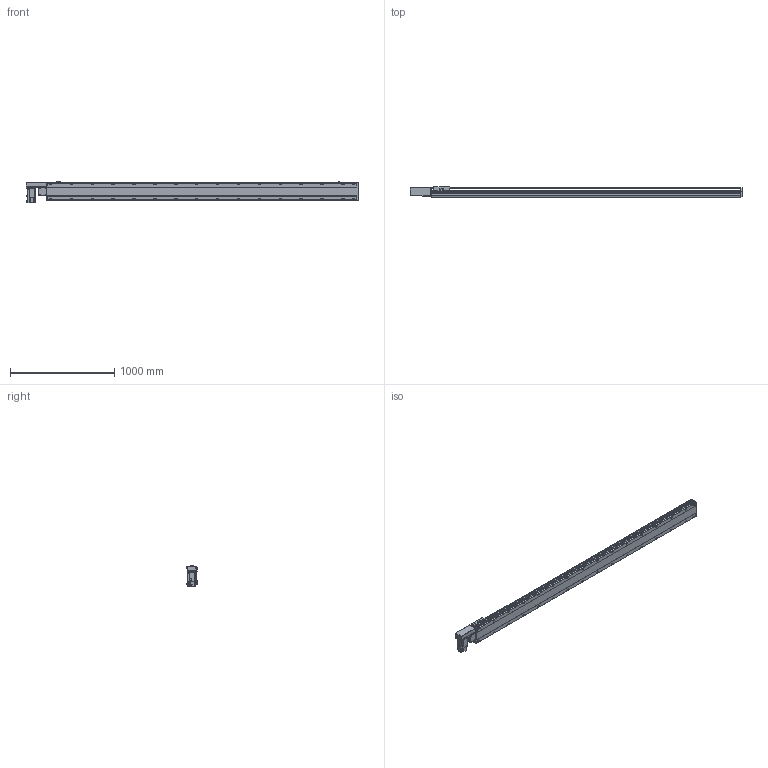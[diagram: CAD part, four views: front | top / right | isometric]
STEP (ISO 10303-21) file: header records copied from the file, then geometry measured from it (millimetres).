
FILE_DESCRIPTION(/* description */ ('STEP AP214'),/* implementation_level */ '2;1');
FILE_NAME(/* name */ 'PBS170-P40-S2700-R-T75-C1-N(0)',/* time_stamp */ '2022-06-07T09:33:00+02:00',/* author */ ('License CC BY-ND 4.0'),/* organization */ ('CADENAS'),/* preprocessor_version */ 'ST-DEVELOPER v18.102',/* originating_system */ 'PARTsolutions',/* authorisation */ ' ');
FILE_SCHEMA (('AUTOMOTIVE_DESIGN {1 0 10303 214 3 1 1}'));
Length unit declared in the file: millimetre
Products named in the file (7): PBS170-P40-S2700-R-T75-C1-N(0); PBS170_sensor; PBS170_plant; PBS170_sliser; T75-p1; PBS170T-R_motors; PBS170-S2700()_body
Assembly tree (8 placements, depth 2):
  PBS170-P40-S2700-R-T75-C1-N(0)
    PBS170_sensor  x3
    PBS170_plant
    PBS170_sliser
    T75-p1
    PBS170T-R_motors
    PBS170-S2700()_body
Bounding box: 3178 x 97 x 205.3 mm (x, y, z)
Volume: 23102352 mm3; surface area: 2902026.4 mm2
Topology: 8 solids, 8 shells, 1210 faces, 3195 edges, 2082 vertices
Faces by surface type: plane 735, cylinder 403, cone 62, sphere 8, torus 2
Full cylindrical faces by diameter (mm): 3.242 x4, 4 x2, 4.4 x4, 4.5 x6, 4.917 x4, 6 x9, 6.647 x40, 7 x2, 7.5 x4, 8 x8, 8.5 x32, 10 x4, 10.5 x32, 11 x2, 30 x2, 40 x1, 70 x1
Entity records: 34782 total; most frequent: CARTESIAN_POINT 6609, DIRECTION 5860, ORIENTED_EDGE 5508, EDGE_CURVE 2754, AXIS2_PLACEMENT_3D 2077, VERTEX_POINT 1922, LINE 1706, VECTOR 1706
